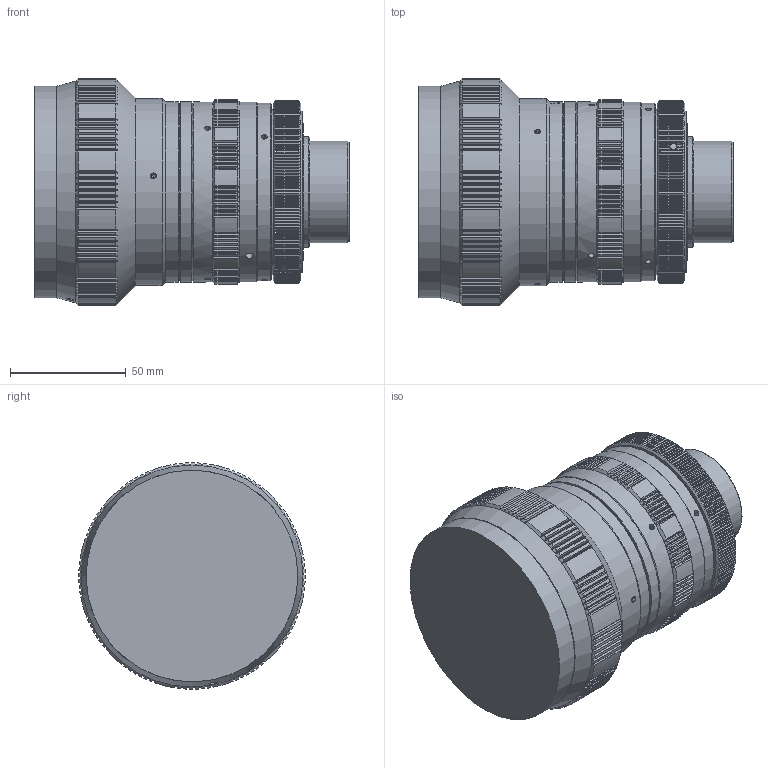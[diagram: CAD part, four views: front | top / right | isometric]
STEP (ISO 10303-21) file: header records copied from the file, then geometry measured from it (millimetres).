
FILE_DESCRIPTION((''),'2;1');
FILE_NAME('\\10.0.0.209\Doc Produ\Meccaniche\STP\A_2004\C0411\C0411_000\C0411_001.stp','2014-04-28T12:43:09',('mcilia'),(''),'Autodesk Inventor 2010','Autodesk Inventor 2010','');
FILE_SCHEMA(('AUTOMOTIVE_DESIGN { 1 0 10303 214 1 1 1 1 }'));
Length unit declared in the file: millimetre
Products named in the file (2): C0411_001_000 (Livello di dettaglio sostituto1); C0411_001
Assembly tree (1 placements, depth 2):
  C0411_001_000 (Livello di dettaglio sostituto1)
    C0411_001
Bounding box: 135.93 x 98 x 98 mm (x, y, z)
Surface area: 104739.1 mm2 (no closed solid volume)
Topology: 0 solids, 31 shells, 969 faces, 4522 edges, 3246 vertices
Faces by surface type: plane 748, cylinder 193, cone 20, bspline 7, sphere 1
Full cylindrical faces by diameter (mm): 2.459 x3, 3.242 x1, 44 x1, 48 x1, 64.5 x1, 65.5 x1, 71.5 x1, 72.5 x1, 74 x1, 77 x1, 78 x3, 81 x1, 91.6 x1
Entity records: 46127 total; most frequent: CARTESIAN_POINT 14657, ORIENTED_EDGE 6863, DIRECTION 5441, EDGE_CURVE 4463, VERTEX_POINT 3231, AXIS2_PLACEMENT_3D 1993, VECTOR 1455, LINE 1455
